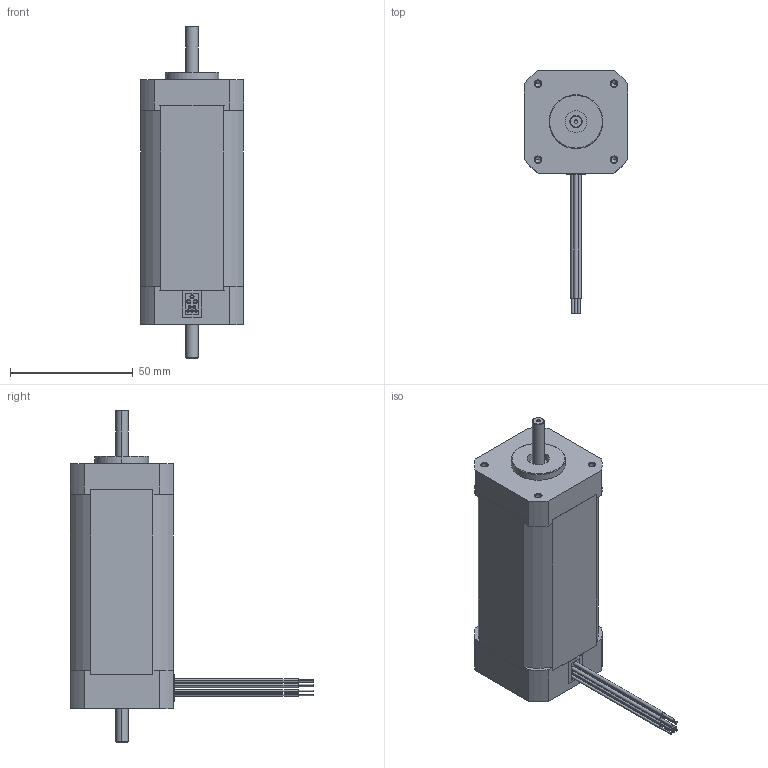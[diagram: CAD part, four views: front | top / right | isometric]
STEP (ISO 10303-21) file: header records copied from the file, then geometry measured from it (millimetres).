
FILE_DESCRIPTION (( 'STEP AP214' ), '1' );
FILE_NAME ('BLY174D.STEP', '2011-11-22T17:03:39', ( '' ), ( '' ), 'SwSTEP 2.0', 'SolidWorks 2011', '' );
FILE_SCHEMA (( 'AUTOMOTIVE_DESIGN' ));
Length unit declared in the file: inch
Products named in the file (1): BLY174D
Bounding box: 42.01 x 99.16 x 135.31 mm (x, y, z)
Volume: 168195.1 mm3; surface area: 22350.5 mm2
Topology: 1 solids, 1 shells, 240 faces, 570 edges, 364 vertices
Faces by surface type: plane 116, cylinder 94, cone 30
Entity records: 8677 total; most frequent: DIRECTION 1246, CARTESIAN_POINT 1163, ORIENTED_EDGE 1116, EDGE_CURVE 558, AXIS2_PLACEMENT_3D 447, VERTEX_POINT 364, LINE 352, VECTOR 352
